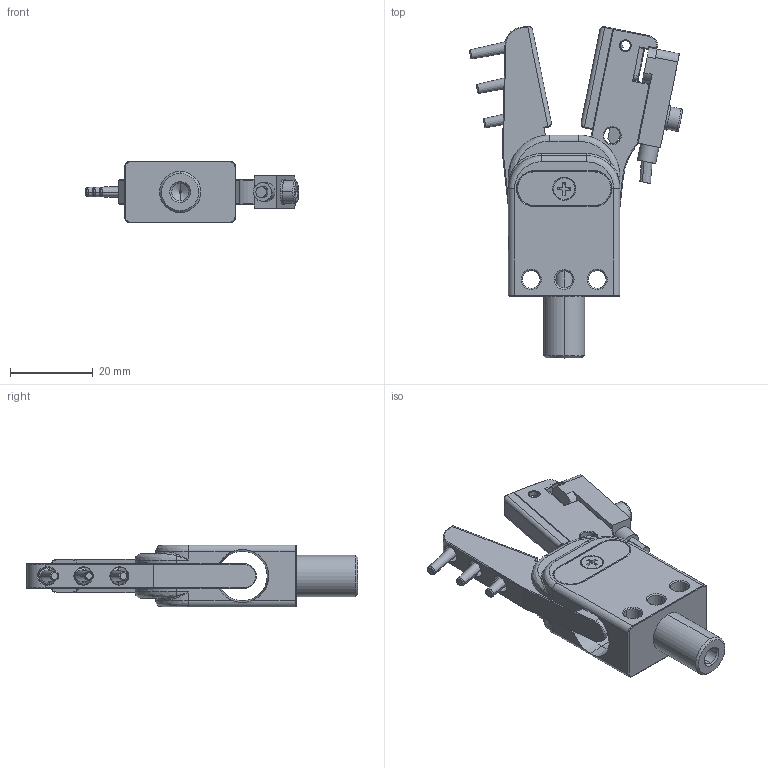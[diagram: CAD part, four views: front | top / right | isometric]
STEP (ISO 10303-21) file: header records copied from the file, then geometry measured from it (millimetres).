
FILE_DESCRIPTION (( 'STEP AP203' ), '1' );
FILE_NAME ('GR12N-12橡胶垫钳口装配.STEP', '2024-04-15T05:48:43', ( '微软用户' ), ( '微软中国' ), 'SwSTEP 2.0', 'SolidWorks 2018', '' );
FILE_SCHEMA (( 'CONFIG_CONTROL_DESIGN' ));
Length unit declared in the file: millimetre
Products named in the file (1): GR12N-12砎蝶菜ヵ諳蚾饜
Bounding box: 51.64 x 80.41 x 15 mm (x, y, z)
Volume: 15928.2 mm3; surface area: 10896.6 mm2
Topology: 1 solids, 18 shells, 651 faces, 1599 edges, 948 vertices
Faces by surface type: plane 267, cylinder 172, cone 147, bspline 65
Entity records: 29062 total; most frequent: CARTESIAN_POINT 14556, ORIENTED_EDGE 3140, DIRECTION 2740, EDGE_CURVE 1570, VERTEX_POINT 947, AXIS2_PLACEMENT_3D 937, LINE 866, VECTOR 866
